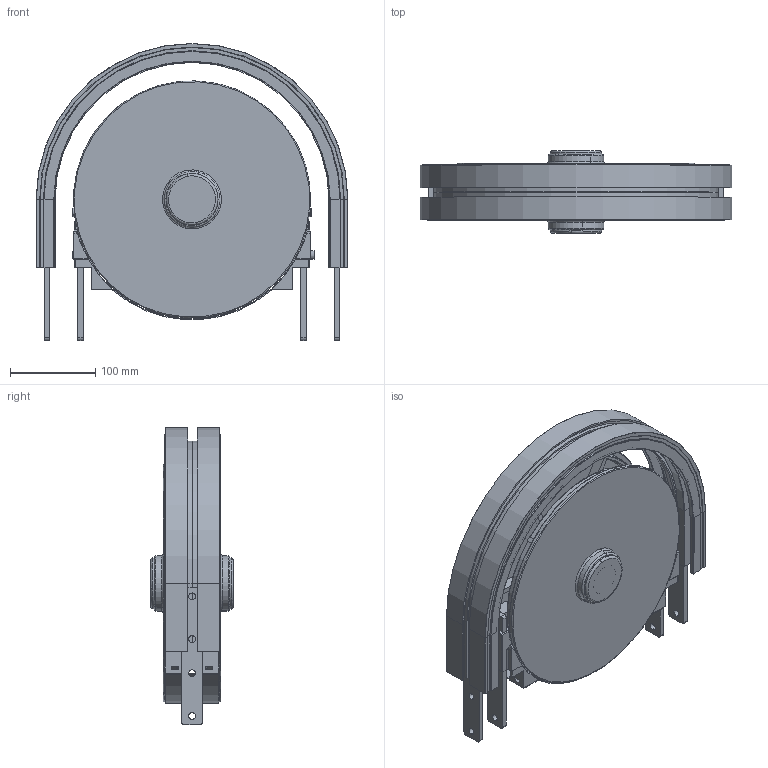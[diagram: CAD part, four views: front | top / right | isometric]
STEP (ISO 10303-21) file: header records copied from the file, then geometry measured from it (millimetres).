
FILE_DESCRIPTION (( 'STEP AP214' ), '1' );
FILE_NAME ('FSWB180R150A.STEP', '2012-03-21T15:09:03', ( 'gs' ), ( 'Microsoft' ), 'SwSTEP 2.0', 'SolidWorks 2011', '' );
FILE_SCHEMA (( 'AUTOMOTIVE_DESIGN' ));
Length unit declared in the file: millimetre
Products named in the file (14): WH08001-3_btm; FASR-25_180R150_180<Brut d''usinage>; WH08001-3_top; WH63003; WH63001-3; WH63002-1; 6004ZZ; FACS-25X160-M2; M6X16 CAP SCREW; FSWB180R150-CB_180<Brut d''usinage>; WH278063; FAEC-WH; 20 ExternalCirclip; FSWB180R150A
Assembly tree (30 placements, depth 2):
  FSWB180R150A
    WH278063  x2
    FACS-25X160-M2  x4
    WH63001-3  x2
    20 ExternalCirclip  x5
    M6X16 CAP SCREW  x4
    6004ZZ  x4
    WH08001-3_btm
    WH63003
    FSWB180R150-CB_180<Brut d''usinage>
    FAEC-WH  x2
    WH63002-1
    FASR-25_180R150_180<Brut d''usinage>  x2
    WH08001-3_top
Bounding box: 365 x 96.4 x 347.7 mm (x, y, z)
Volume: 1800297.5 mm3; surface area: 867996 mm2
Topology: 30 solids, 30 shells, 1991 faces, 5061 edges, 3218 vertices
Faces by surface type: plane 856, cylinder 596, cone 252, bspline 190, torus 97
Entity records: 40971 total; most frequent: CARTESIAN_POINT 15871, ORIENTED_EDGE 5206, DIRECTION 4917, EDGE_CURVE 2603, AXIS2_PLACEMENT_3D 1699, VERTEX_POINT 1653, VECTOR 1519, LINE 1519
